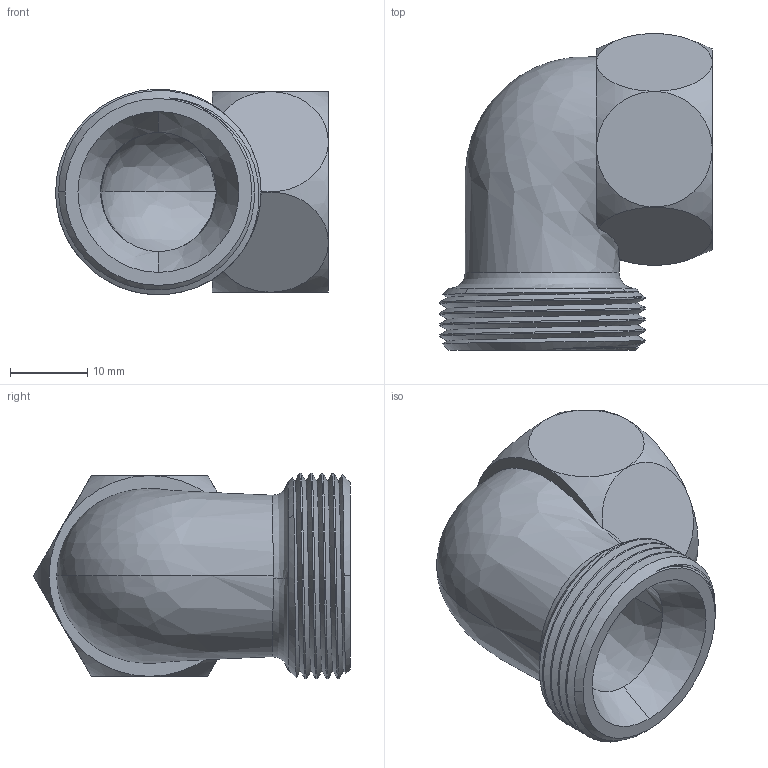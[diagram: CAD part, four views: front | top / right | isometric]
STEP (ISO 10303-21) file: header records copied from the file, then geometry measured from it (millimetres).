
FILE_DESCRIPTION (( 'STEP AP203' ), '1' );
FILE_NAME ('12X34.STEP', '2012-06-30T07:41:07', ( 'Administrators' ), ( 'JUJUMAO' ), 'SwSTEP 2.0', 'SolidWorks 2008', '' );
FILE_SCHEMA (( 'CONFIG_CONTROL_DESIGN' ));
Length unit declared in the file: millimetre
Products named in the file (1): 12X34
Bounding box: 35.3 x 40.99 x 26.58 mm (x, y, z)
Volume: 9676 mm3; surface area: 8337 mm2
Topology: 1 solids, 1 shells, 82 faces, 301 edges, 197 vertices
Faces by surface type: cylinder 35, bspline 17, plane 14, cone 10, torus 6
Entity records: 8354 total; most frequent: CARTESIAN_POINT 6265, ORIENTED_EDGE 602, EDGE_CURVE 301, DIRECTION 219, VERTEX_POINT 197, B_SPLINE_CURVE_WITH_KNOTS 181, AXIS2_PLACEMENT_3D 97, EDGE_LOOP 86
